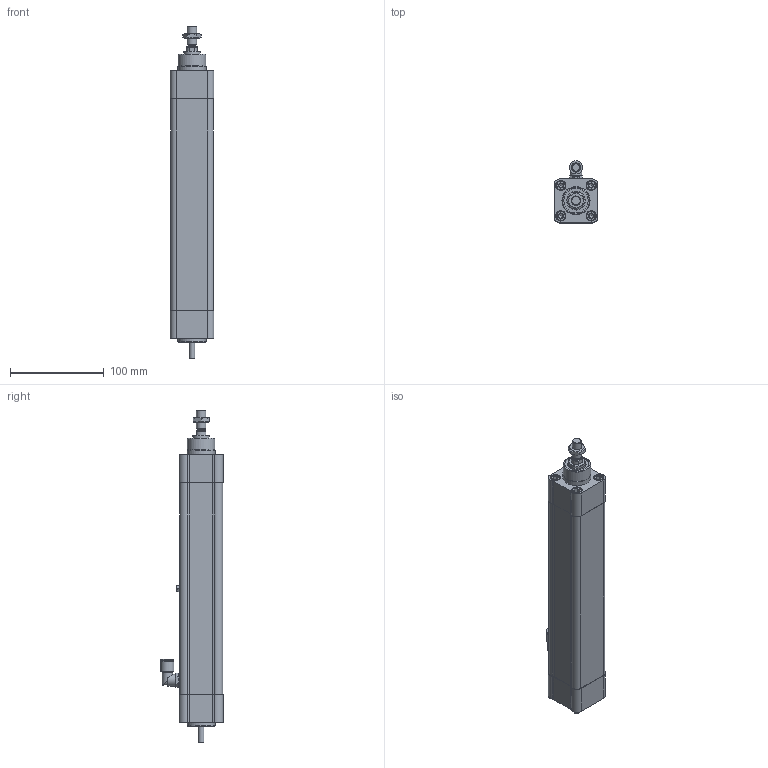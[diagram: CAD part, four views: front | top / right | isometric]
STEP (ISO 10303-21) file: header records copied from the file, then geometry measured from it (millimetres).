
FILE_DESCRIPTION(/* description */ ('STEP AP214'),/* implementation_level */ '2;1');
FILE_NAME(/* name */ 'PNCE 32 BS 1205 150 FI(0)',/* time_stamp */ '2026-04-29T16:43:25+02:00',/* author */ ('License CC BY-ND 4.0'),/* organization */ ('CADENAS'),/* preprocessor_version */ 'ST-DEVELOPER v20',/* originating_system */ 'PARTsolutions',/* authorisation */ ' ');
FILE_SCHEMA (('AUTOMOTIVE_DESIGN {1 0 10303 214 3 1 1}'));
Length unit declared in the file: millimetre
Products named in the file (6): PNCE 32 BS 1205 150 FI(0); PNCE 32_drive cap; PNCE 32 150 FI(0)_cylinder profil; PNCE 32_front cap; PNCE 32 150 FI 0_piston rod; PNCE 32_nut
Assembly tree (5 placements, depth 2):
  PNCE 32 BS 1205 150 FI(0)
    PNCE 32_drive cap
    PNCE 32 150 FI(0)_cylinder profil
    PNCE 32_front cap
    PNCE 32 150 FI 0_piston rod
    PNCE 32_nut
Bounding box: 46.97 x 66.5 x 355 mm (x, y, z)
Volume: 506850.6 mm3; surface area: 137589 mm2
Topology: 5 solids, 5 shells, 312 faces, 684 edges, 443 vertices
Faces by surface type: plane 161, cylinder 100, cone 45, torus 5, sphere 1
Full cylindrical faces by diameter (mm): 4.917 x8, 5 x4, 6 x9, 6.7 x4, 8 x2, 8.376 x1, 8.4 x1, 10 x10, 11 x9, 12.5 x2, 14 x2, 17.8 x1, 18 x2, 19 x1, 20 x1, 22 x1, 26 x1, 29.5 x1, 30 x3, 31.5 x1, 32.5 x3
Entity records: 10091 total; most frequent: CARTESIAN_POINT 1527, DIRECTION 1386, ORIENTED_EDGE 1124, AXIS2_PLACEMENT_3D 564, EDGE_CURVE 562, FACE_BOUND 489, EDGE_LOOP 481, VERTEX_POINT 431
